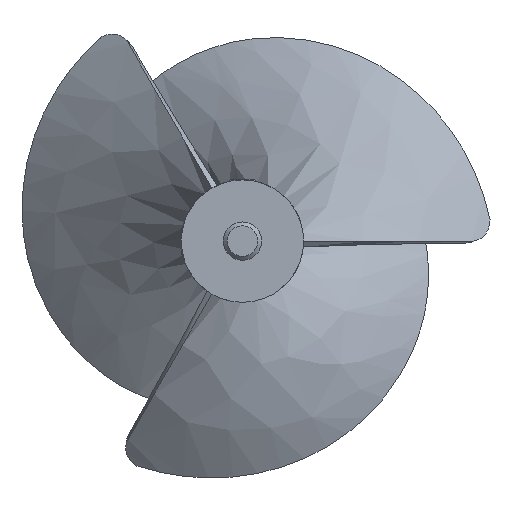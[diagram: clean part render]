
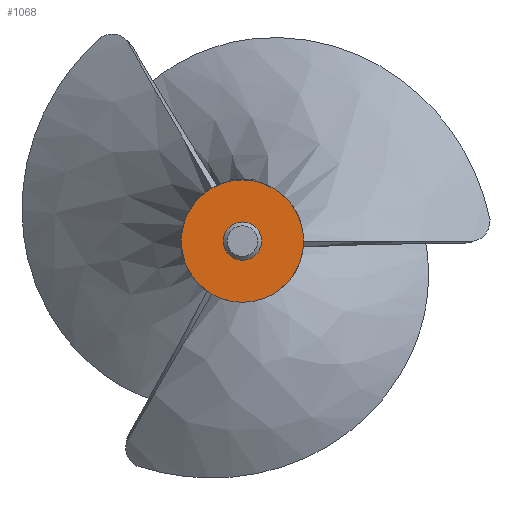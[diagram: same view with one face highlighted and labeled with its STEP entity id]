
A CAD part, front view. The second image highlights one B-rep face of the part: STEP entity #1068.
In plain terms, the highlighted planar face has unit normal (0, -1, 0).
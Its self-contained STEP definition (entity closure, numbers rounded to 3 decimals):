
#96=FACE_BOUND('',#208,.T.);
#104=PLANE('',#1247);
#137=FACE_OUTER_BOUND('',#207,.T.);
#207=EDGE_LOOP('',(#847));
#208=EDGE_LOOP('',(#848));
#338=CIRCLE('',#1226,16.);
#343=CIRCLE('',#1238,5.);
#482=VERTEX_POINT('',#3250);
#496=VERTEX_POINT('',#3415);
#598=EDGE_CURVE('',#482,#482,#338,.T.);
#619=EDGE_CURVE('',#496,#496,#343,.T.);
#847=ORIENTED_EDGE('',*,*,#598,.T.);
#848=ORIENTED_EDGE('',*,*,#619,.T.);
#1068=ADVANCED_FACE('',(#137,#96),#104,.T.);
#1226=AXIS2_PLACEMENT_3D('',#3251,#1358,#1359);
#1238=AXIS2_PLACEMENT_3D('',#3416,#1388,#1389);
#1247=AXIS2_PLACEMENT_3D('',#3457,#1409,#1410);
#1358=DIRECTION('center_axis',(0.,-1.,0.));
#1359=DIRECTION('ref_axis',(1.,0.,0.));
#1388=DIRECTION('center_axis',(0.,1.,0.));
#1389=DIRECTION('ref_axis',(1.,0.,0.));
#1409=DIRECTION('center_axis',(0.,-1.,0.));
#1410=DIRECTION('ref_axis',(0.,0.,-1.));
#3250=CARTESIAN_POINT('',(-16.,-20.,0.));
#3251=CARTESIAN_POINT('Origin',(0.,-20.,0.));
#3415=CARTESIAN_POINT('',(-5.,-20.,0.));
#3416=CARTESIAN_POINT('Origin',(0.,-20.,0.));
#3457=CARTESIAN_POINT('Origin',(0.,-20.,0.));
